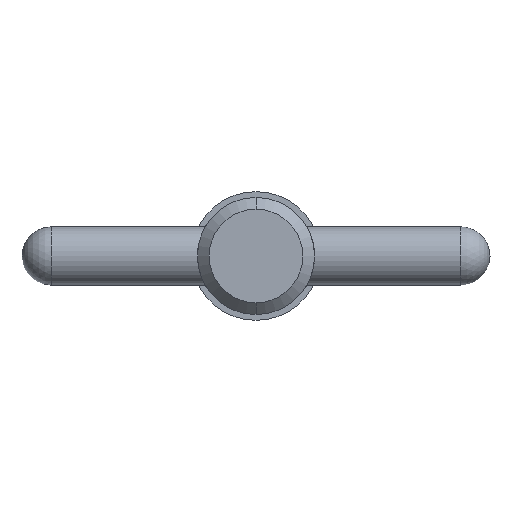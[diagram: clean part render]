
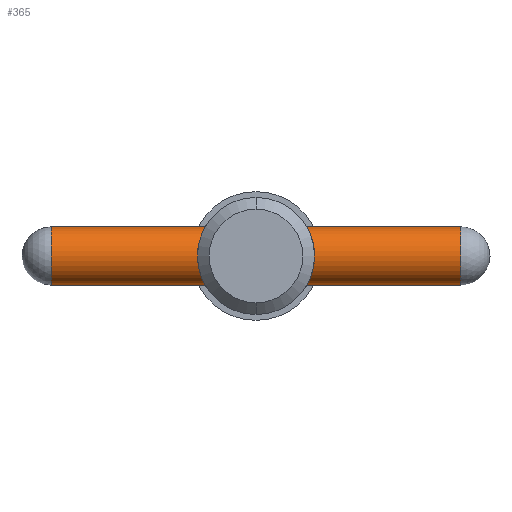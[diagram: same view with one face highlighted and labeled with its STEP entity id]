
A CAD part, left-side view. The second image highlights one B-rep face of the part: STEP entity #365.
In plain terms, the highlighted cylindrical face has radius 1.585 mm (diameter 3.17 mm), a partial arc.
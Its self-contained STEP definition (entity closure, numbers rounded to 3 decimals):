
#11 = FACE_OUTER_BOUND ( 'NONE', #481, .T. ) ;
#49 = VERTEX_POINT ( 'NONE', #407 ) ;
#93 = EDGE_CURVE ( 'NONE', #49, #125, #652, .T. ) ;
#114 = LINE ( 'NONE', #630, #214 ) ;
#125 = VERTEX_POINT ( 'NONE', #219 ) ;
#134 = EDGE_CURVE ( 'NONE', #49, #809, #659, .T. ) ;
#209 = VERTEX_POINT ( 'NONE', #349 ) ;
#214 = VECTOR ( 'NONE', #328, 1000. ) ;
#219 = CARTESIAN_POINT ( 'NONE',  ( 0., -11.115, 1.585 ) ) ;
#223 = CYLINDRICAL_SURFACE ( 'NONE', #712, 1.585 ) ;
#244 = CARTESIAN_POINT ( 'NONE',  ( 0., -11.115, 0. ) ) ;
#258 = ORIENTED_EDGE ( 'NONE', *, *, #134, .T. ) ;
#272 = CARTESIAN_POINT ( 'NONE',  ( 0., 12.7, 1.585 ) ) ;
#286 = CIRCLE ( 'NONE', #858, 1.585 ) ;
#290 = CARTESIAN_POINT ( 'NONE',  ( 0., 11.115, -1.585 ) ) ;
#328 = DIRECTION ( 'NONE',  ( 0., -1., 0. ) ) ;
#345 = VECTOR ( 'NONE', #819, 1000. ) ;
#349 = CARTESIAN_POINT ( 'NONE',  ( 0., -11.115, -1.585 ) ) ;
#365 = ADVANCED_FACE ( 'NONE', ( #11 ), #223, .T. ) ;
#402 = EDGE_CURVE ( 'NONE', #809, #209, #114, .T. ) ;
#407 = CARTESIAN_POINT ( 'NONE',  ( 0., 11.115, 1.585 ) ) ;
#411 = ORIENTED_EDGE ( 'NONE', *, *, #93, .F. ) ;
#430 = ORIENTED_EDGE ( 'NONE', *, *, #454, .T. ) ;
#445 = DIRECTION ( 'NONE',  ( 0., -1., 0. ) ) ;
#454 = EDGE_CURVE ( 'NONE', #209, #125, #286, .T. ) ;
#463 = DIRECTION ( 'NONE',  ( 0., 0., -1. ) ) ;
#481 = EDGE_LOOP ( 'NONE', ( #411, #258, #800, #430 ) ) ;
#483 = DIRECTION ( 'NONE',  ( 0., 0., -1. ) ) ;
#542 = DIRECTION ( 'NONE',  ( 0., 1., 0. ) ) ;
#630 = CARTESIAN_POINT ( 'NONE',  ( 0., 12.7, -1.585 ) ) ;
#652 = LINE ( 'NONE', #272, #345 ) ;
#659 = CIRCLE ( 'NONE', #934, 1.585 ) ;
#712 = AXIS2_PLACEMENT_3D ( 'NONE', #850, #445, #483 ) ;
#741 = DIRECTION ( 'NONE',  ( 0., -1., 0. ) ) ;
#800 = ORIENTED_EDGE ( 'NONE', *, *, #402, .T. ) ;
#809 = VERTEX_POINT ( 'NONE', #290 ) ;
#819 = DIRECTION ( 'NONE',  ( 0., -1., 0. ) ) ;
#850 = CARTESIAN_POINT ( 'NONE',  ( 0., 12.7, 0. ) ) ;
#858 = AXIS2_PLACEMENT_3D ( 'NONE', #244, #542, #463 ) ;
#906 = DIRECTION ( 'NONE',  ( 0., 0., -1. ) ) ;
#915 = CARTESIAN_POINT ( 'NONE',  ( 0., 11.115, 0. ) ) ;
#934 = AXIS2_PLACEMENT_3D ( 'NONE', #915, #741, #906 ) ;
